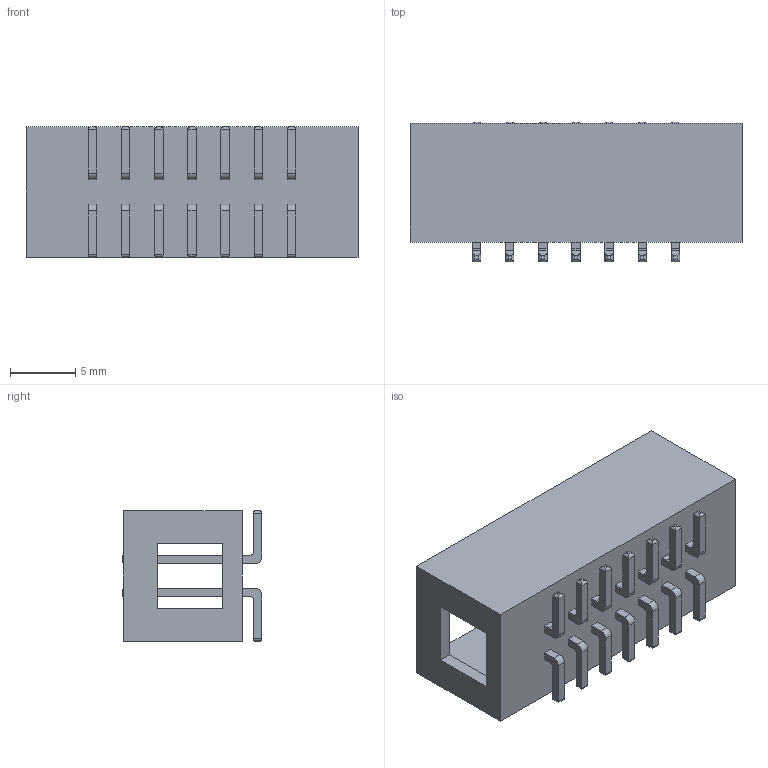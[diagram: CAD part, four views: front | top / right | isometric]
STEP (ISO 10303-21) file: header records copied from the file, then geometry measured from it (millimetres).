
FILE_DESCRIPTION (( 'STEP AP214' ), '1' );
FILE_NAME ('14 pin 2.54mm box header SMD type.....STEP', '2020-04-25T15:05:40', ( 'Dell' ), ( 'Microsoft' ), 'SwSTEP 2.0', 'SolidWorks 2018', '' );
FILE_SCHEMA (( 'AUTOMOTIVE_DESIGN' ));
Length unit declared in the file: millimetre
Products named in the file (1): 14 pin 2.54mm box header SMD type....
Bounding box: 25.44 x 10.7 x 10 mm (x, y, z)
Volume: 877.1 mm3; surface area: 1959.7 mm2
Topology: 1 solids, 1 shells, 334 faces, 806 edges, 500 vertices
Faces by surface type: plane 194, cylinder 140
Entity records: 13146 total; most frequent: CARTESIAN_POINT 1977, ORIENTED_EDGE 1612, DIRECTION 1420, EDGE_CURVE 806, VECTOR 638, LINE 638, VERTEX_POINT 500, AXIS2_PLACEMENT_3D 391
